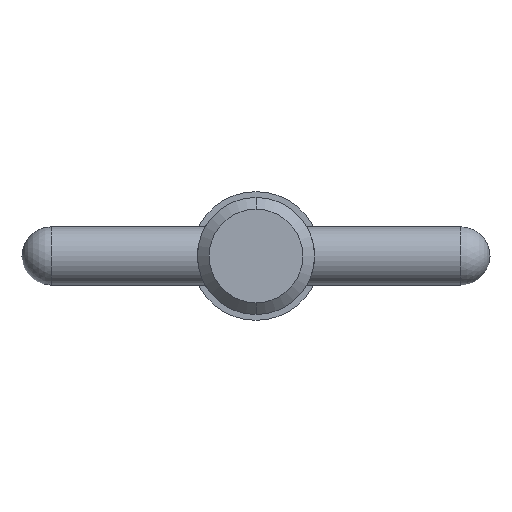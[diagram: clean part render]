
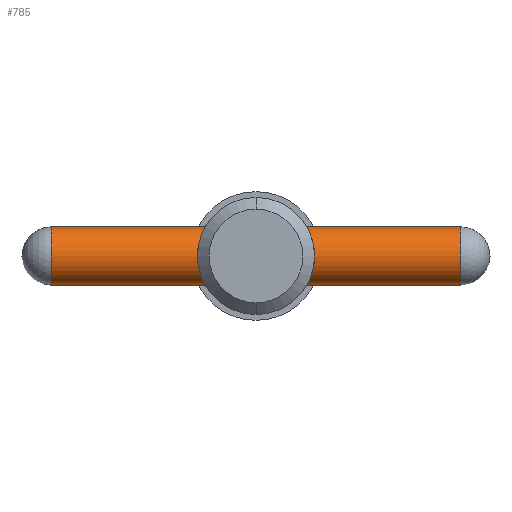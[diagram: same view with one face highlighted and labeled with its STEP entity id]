
A CAD part, left-side view. The second image highlights one B-rep face of the part: STEP entity #785.
In plain terms, the highlighted cylindrical face has radius 1.585 mm (diameter 3.17 mm), a partial arc.
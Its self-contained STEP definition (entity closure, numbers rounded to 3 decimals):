
#27 = DIRECTION ( 'NONE',  ( 0., -1., 0. ) ) ;
#48 = DIRECTION ( 'NONE',  ( 0., -1., 0. ) ) ;
#87 = AXIS2_PLACEMENT_3D ( 'NONE', #637, #27, #328 ) ;
#119 = CARTESIAN_POINT ( 'NONE',  ( 0., -11.115, 1.585 ) ) ;
#139 = CIRCLE ( 'NONE', #87, 1.585 ) ;
#171 = CYLINDRICAL_SURFACE ( 'NONE', #561, 1.585 ) ;
#179 = DIRECTION ( 'NONE',  ( 0., 1., 0. ) ) ;
#246 = CARTESIAN_POINT ( 'NONE',  ( 0., 11.115, -1.585 ) ) ;
#262 = LINE ( 'NONE', #507, #888 ) ;
#283 = EDGE_CURVE ( 'NONE', #812, #570, #838, .T. ) ;
#284 = VECTOR ( 'NONE', #588, 1000. ) ;
#328 = DIRECTION ( 'NONE',  ( 0., 0., -1. ) ) ;
#392 = DIRECTION ( 'NONE',  ( 0., -1., 0. ) ) ;
#473 = EDGE_CURVE ( 'NONE', #882, #812, #262, .T. ) ;
#484 = ORIENTED_EDGE ( 'NONE', *, *, #950, .F. ) ;
#507 = CARTESIAN_POINT ( 'NONE',  ( 0., 12.7, -1.585 ) ) ;
#548 = CARTESIAN_POINT ( 'NONE',  ( 0., 11.115, 1.585 ) ) ;
#558 = CARTESIAN_POINT ( 'NONE',  ( 0., -11.115, -1.585 ) ) ;
#561 = AXIS2_PLACEMENT_3D ( 'NONE', #565, #392, #942 ) ;
#565 = CARTESIAN_POINT ( 'NONE',  ( 0., 12.7, 0. ) ) ;
#570 = VERTEX_POINT ( 'NONE', #119 ) ;
#581 = ORIENTED_EDGE ( 'NONE', *, *, #854, .T. ) ;
#588 = DIRECTION ( 'NONE',  ( 0., -1., 0. ) ) ;
#637 = CARTESIAN_POINT ( 'NONE',  ( 0., 11.115, 0. ) ) ;
#649 = CARTESIAN_POINT ( 'NONE',  ( 0., -11.115, 0. ) ) ;
#651 = VERTEX_POINT ( 'NONE', #548 ) ;
#716 = FACE_OUTER_BOUND ( 'NONE', #951, .T. ) ;
#739 = CARTESIAN_POINT ( 'NONE',  ( 0., 12.7, 1.585 ) ) ;
#785 = ADVANCED_FACE ( 'NONE', ( #716 ), #171, .T. ) ;
#786 = DIRECTION ( 'NONE',  ( 0., 0., -1. ) ) ;
#812 = VERTEX_POINT ( 'NONE', #558 ) ;
#823 = LINE ( 'NONE', #739, #284 ) ;
#838 = CIRCLE ( 'NONE', #943, 1.585 ) ;
#854 = EDGE_CURVE ( 'NONE', #651, #882, #139, .T. ) ;
#866 = ORIENTED_EDGE ( 'NONE', *, *, #473, .T. ) ;
#882 = VERTEX_POINT ( 'NONE', #246 ) ;
#888 = VECTOR ( 'NONE', #48, 1000. ) ;
#917 = ORIENTED_EDGE ( 'NONE', *, *, #283, .T. ) ;
#942 = DIRECTION ( 'NONE',  ( 0., 0., -1. ) ) ;
#943 = AXIS2_PLACEMENT_3D ( 'NONE', #649, #179, #786 ) ;
#950 = EDGE_CURVE ( 'NONE', #651, #570, #823, .T. ) ;
#951 = EDGE_LOOP ( 'NONE', ( #484, #581, #866, #917 ) ) ;
